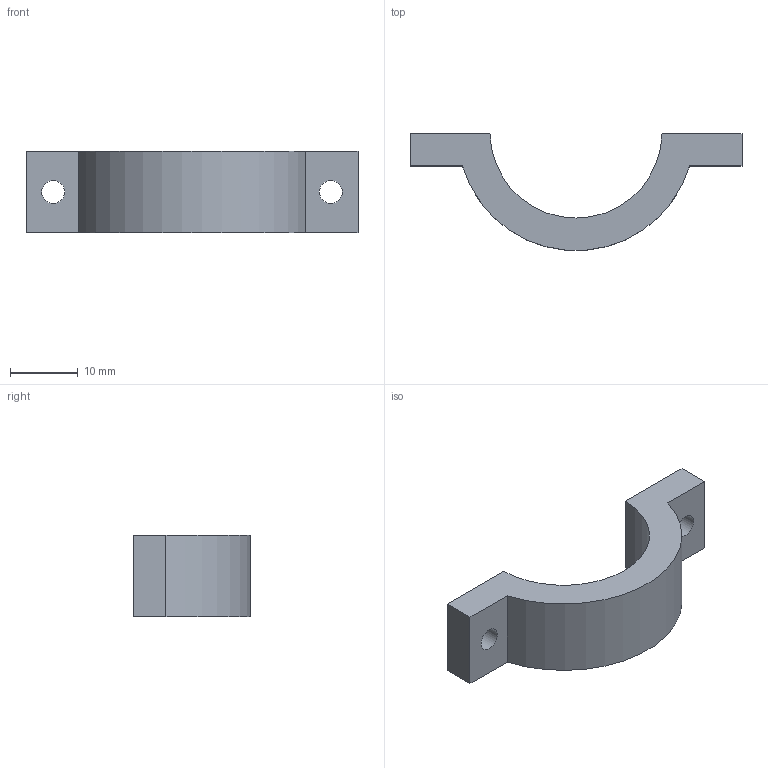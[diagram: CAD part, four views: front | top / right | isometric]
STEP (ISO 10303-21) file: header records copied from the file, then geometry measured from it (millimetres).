
FILE_DESCRIPTION(('Open CASCADE Model'),'2;1');
FILE_NAME('Open CASCADE Shape Model','2026-10-21T16:54:03',('Author'),( 'Open CASCADE'),'Open CASCADE STEP processor 7.9','Open CASCADE 7.9' ,'Unknown');
FILE_SCHEMA(('AUTOMOTIVE_DESIGN { 1 0 10303 214 1 1 1 1 }'));
Length unit declared in the file: millimetre
Products named in the file (1): Open CASCADE STEP translator 7.9 63
Bounding box: 49 x 17.19 x 12 mm (x, y, z)
Volume: 3444.3 mm3; surface area: 2247.2 mm2
Topology: 1 solids, 1 shells, 12 faces, 30 edges, 20 vertices
Faces by surface type: plane 8, cylinder 4
Full cylindrical faces by diameter (mm): 3.4 x2
Entity records: 770 total; most frequent: DIRECTION 124, CARTESIAN_POINT 123, LINE 74, VECTOR 74, ORIENTED_EDGE 60, PCURVE 60, DEFINITIONAL_REPRESENTATION 60, EDGE_CURVE 30
